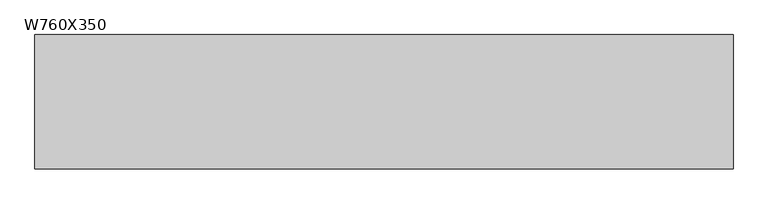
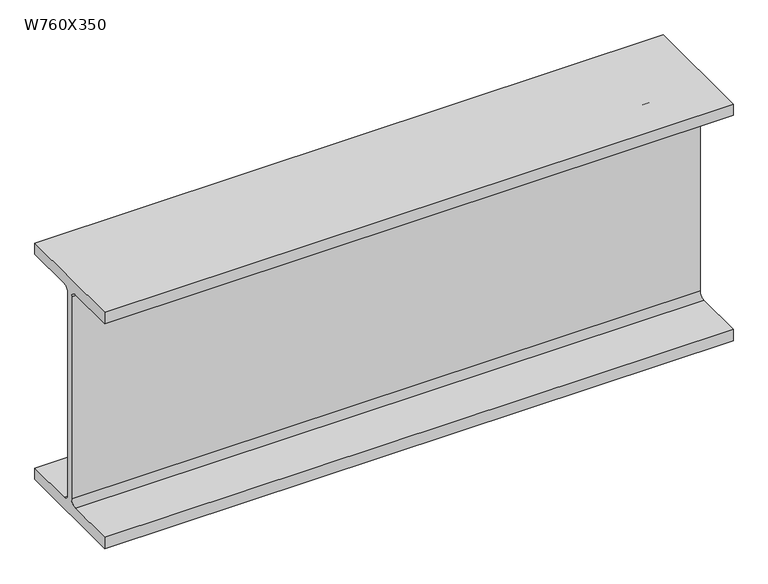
"""IFC4 building model written with IfcOpenShell, lengths in millimetres: beam geometry, M_W Shapes : W760X350."""

from ifc_helpers import new_model, si_unit, point, frame, frame_2d, origin, place, context, project, spatial, polyline, circle_curve, trimmed, segment, composite_curve, outline, extrude, source, transform, mapped, element, save


def w760x350_08d34d1b(model_context):
    return source(origin(), model_context, "Body", "SweptSolid", [
        extrude(outline(composite_curve([segment(polyline([(192.0, -359.4), (192.0, -397.5), (-192.0, -397.5), (-192.0, -359.4), (-30.65, -359.4)]), True, "CONTINUOUS"), segment(trimmed(circle_curve(frame_2d((-30.65, -339.3)), 20.1), [point((-30.65, -359.4))], [point((-10.55, -339.3))], True, "CARTESIAN"), True, "CONTINUOUS"), segment(polyline([(-10.55, -339.3), (-10.55, 339.3)]), True, "CONTINUOUS"), segment(trimmed(circle_curve(frame_2d((-30.65, 339.3)), 20.1), [point((-10.55, 339.3))], [point((-30.65, 359.4))], True, "CARTESIAN"), True, "CONTINUOUS"), segment(polyline([(-30.65, 359.4), (-192.0, 359.4), (-192.0, 397.5), (192.0, 397.5), (192.0, 359.4), (30.65, 359.4)]), True, "CONTINUOUS"), segment(trimmed(circle_curve(frame_2d((30.65, 339.3)), 20.1), [point((30.65, 359.4))], [point((10.55, 339.3))], True, "CARTESIAN"), True, "CONTINUOUS"), segment(polyline([(10.55, 339.3), (10.55, -339.3)]), True, "CONTINUOUS"), segment(trimmed(circle_curve(frame_2d((30.65, -339.3)), 20.1), [point((10.55, -339.3))], [point((30.65, -359.4))], True, "CARTESIAN"), True, "CONTINUOUS"), segment(polyline([(30.65, -359.4), (192.0, -359.4)]), True, "CONTINUOUS")], self_intersect=False)), frame((-1008.25, 0.0, 0.0), z_axis=(1.0, 0.0, 0.0), x_axis=(0.0, 1.0, 0.0)), (0.0, 0.0, 1.0), 1998.7),
    ])


if __name__ == "__main__":
    model = new_model("IFC4")
    model_context = context("Model", 3, world=origin())
    ifc_project = project(units=[si_unit("LENGTHUNIT", "METRE", prefix="MILLI")], contexts=[model_context])
    site = spatial("IfcSite", under=ifc_project)
    building = spatial("IfcBuilding", under=site)
    placement = place(None, origin())
    w760x350_shape = w760x350_08d34d1b(model_context)
    element("IfcBeam", 1, ObjectType="M_W Shapes : W760X350", at=placement, inside=building, context=model_context, shape_type="MappedRepresentation", body=[
        mapped(w760x350_shape, transform((0.0, 0.0, 0.0), x_axis=(1.0, 0.0, 0.0), y_axis=(0.0, 1.0, 0.0), z_axis=(0.0, 0.0, 1.0))),
    ])
    save(model, "model.ifc")
